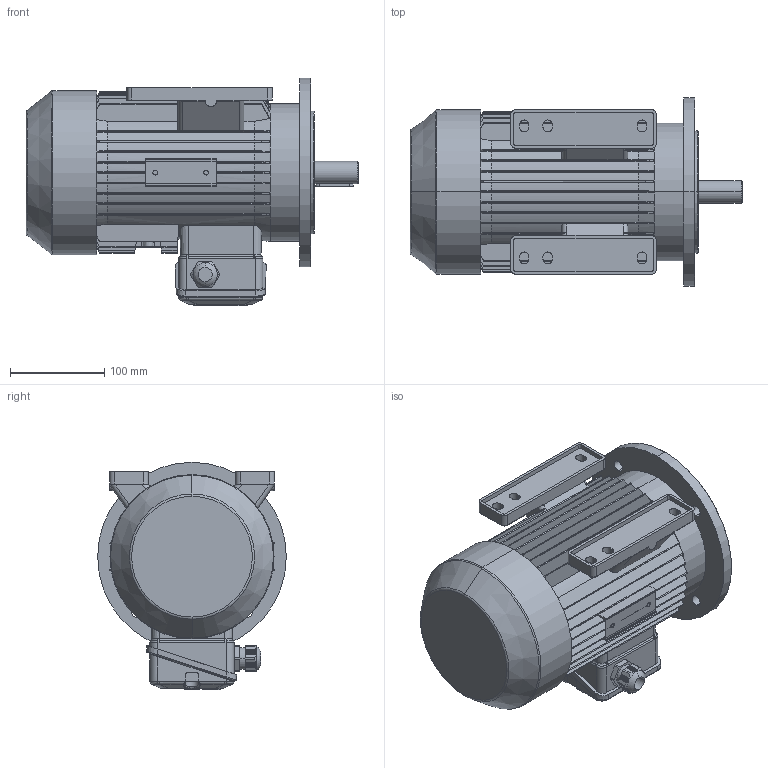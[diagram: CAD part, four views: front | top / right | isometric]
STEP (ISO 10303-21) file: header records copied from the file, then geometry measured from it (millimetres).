
FILE_DESCRIPTION (( 'STEP AP214' ), '1' );
FILE_NAME ('MAP90S2A IM2041 A200 FF165.STEP', '2020-12-21T14:49:09', ( '' ), ( '' ), 'SwSTEP 2.0', 'SolidWorks 2018', '' );
FILE_SCHEMA (( 'AUTOMOTIVE_DESIGN' ));
Length unit declared in the file: millimetre
Products named in the file (1): MAP90S2A IM2041 A200 FF165
Bounding box: 352 x 200 x 241 mm (x, y, z)
Volume: 6356876.8 mm3; surface area: 482755.2 mm2
Topology: 2 solids, 8 shells, 1342 faces, 3574 edges, 2279 vertices
Faces by surface type: plane 581, cylinder 341, bspline 188, cone 151, torus 79, sphere 2
Entity records: 53831 total; most frequent: CARTESIAN_POINT 22768, ORIENTED_EDGE 7136, DIRECTION 5641, EDGE_CURVE 3568, VERTEX_POINT 2279, AXIS2_PLACEMENT_3D 1984, LINE 1673, VECTOR 1673
